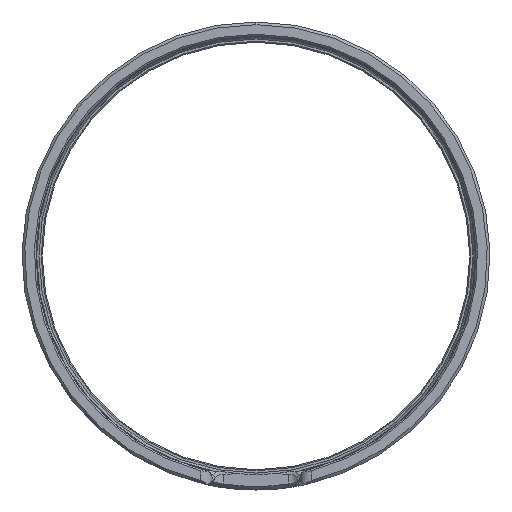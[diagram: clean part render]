
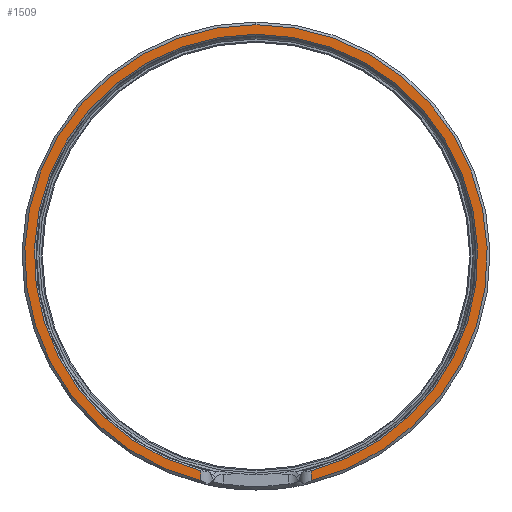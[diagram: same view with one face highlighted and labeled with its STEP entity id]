
A CAD part, left-side view. The second image highlights one B-rep face of the part: STEP entity #1509.
In plain terms, the highlighted planar face has unit normal (-1, 0, 0).
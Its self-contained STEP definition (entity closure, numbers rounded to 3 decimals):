
#252 = VERTEX_POINT ( 'NONE', #3123 ) ;
#338 = CIRCLE ( 'NONE', #3827, 40.975 ) ;
#498 = ORIENTED_EDGE ( 'NONE', *, *, #2513, .T. ) ;
#684 = AXIS2_PLACEMENT_3D ( 'NONE', #4664, #4759, #3867 ) ;
#850 = CARTESIAN_POINT ( 'NONE',  ( -240., 0., 0. ) ) ;
#854 = CARTESIAN_POINT ( 'NONE',  ( -240., 0., 0. ) ) ;
#870 = CARTESIAN_POINT ( 'NONE',  ( -240., -10.2, -43.25 ) ) ;
#1283 = CARTESIAN_POINT ( 'NONE',  ( -240., 10.2, -43.25 ) ) ;
#1472 = CIRCLE ( 'NONE', #684, 42.75 ) ;
#1480 = VECTOR ( 'NONE', #1830, 1000. ) ;
#1489 = DIRECTION ( 'NONE',  ( -1., 0., 0. ) ) ;
#1509 = ADVANCED_FACE ( 'NONE', ( #3520 ), #3640, .T. ) ;
#1517 = VERTEX_POINT ( 'NONE', #3131 ) ;
#1562 = CARTESIAN_POINT ( 'NONE',  ( -240., 0., 42.75 ) ) ;
#1606 = CIRCLE ( 'NONE', #3057, 42.75 ) ;
#1785 = VECTOR ( 'NONE', #2723, 1000. ) ;
#1830 = DIRECTION ( 'NONE',  ( 0., 0., 1. ) ) ;
#2047 = AXIS2_PLACEMENT_3D ( 'NONE', #854, #4417, #3580 ) ;
#2308 = CARTESIAN_POINT ( 'NONE',  ( -240., -10.2, -39.685 ) ) ;
#2374 = EDGE_CURVE ( 'NONE', #252, #5129, #1472, .T. ) ;
#2513 = EDGE_CURVE ( 'NONE', #4484, #1517, #5956, .T. ) ;
#2723 = DIRECTION ( 'NONE',  ( 0., 0., 1. ) ) ;
#2937 = EDGE_CURVE ( 'NONE', #2997, #1517, #338, .T. ) ;
#2997 = VERTEX_POINT ( 'NONE', #2308 ) ;
#3040 = CARTESIAN_POINT ( 'NONE',  ( -240., 10.2, -41.515 ) ) ;
#3057 = AXIS2_PLACEMENT_3D ( 'NONE', #850, #3517, #5402 ) ;
#3123 = CARTESIAN_POINT ( 'NONE',  ( -240., -10.2, -41.515 ) ) ;
#3131 = CARTESIAN_POINT ( 'NONE',  ( -240., 10.2, -39.685 ) ) ;
#3283 = EDGE_CURVE ( 'NONE', #5129, #4484, #1606, .T. ) ;
#3364 = EDGE_LOOP ( 'NONE', ( #4569, #3868, #4109, #498, #5727 ) ) ;
#3517 = DIRECTION ( 'NONE',  ( -1., 0., 0. ) ) ;
#3520 = FACE_OUTER_BOUND ( 'NONE', #3364, .T. ) ;
#3580 = DIRECTION ( 'NONE',  ( 0., 0., -1. ) ) ;
#3640 = PLANE ( 'NONE',  #2047 ) ;
#3827 = AXIS2_PLACEMENT_3D ( 'NONE', #5449, #1489, #4230 ) ;
#3867 = DIRECTION ( 'NONE',  ( 0., 0., 1. ) ) ;
#3868 = ORIENTED_EDGE ( 'NONE', *, *, #2374, .T. ) ;
#4109 = ORIENTED_EDGE ( 'NONE', *, *, #3283, .T. ) ;
#4230 = DIRECTION ( 'NONE',  ( 0., 0., 1. ) ) ;
#4417 = DIRECTION ( 'NONE',  ( -1., 0., 0. ) ) ;
#4484 = VERTEX_POINT ( 'NONE', #3040 ) ;
#4569 = ORIENTED_EDGE ( 'NONE', *, *, #5929, .F. ) ;
#4664 = CARTESIAN_POINT ( 'NONE',  ( -240., 0., 0. ) ) ;
#4759 = DIRECTION ( 'NONE',  ( -1., 0., 0. ) ) ;
#5000 = LINE ( 'NONE', #870, #1785 ) ;
#5129 = VERTEX_POINT ( 'NONE', #1562 ) ;
#5402 = DIRECTION ( 'NONE',  ( 0., 0., 1. ) ) ;
#5449 = CARTESIAN_POINT ( 'NONE',  ( -240., 0., 0. ) ) ;
#5727 = ORIENTED_EDGE ( 'NONE', *, *, #2937, .F. ) ;
#5929 = EDGE_CURVE ( 'NONE', #252, #2997, #5000, .T. ) ;
#5956 = LINE ( 'NONE', #1283, #1480 ) ;
